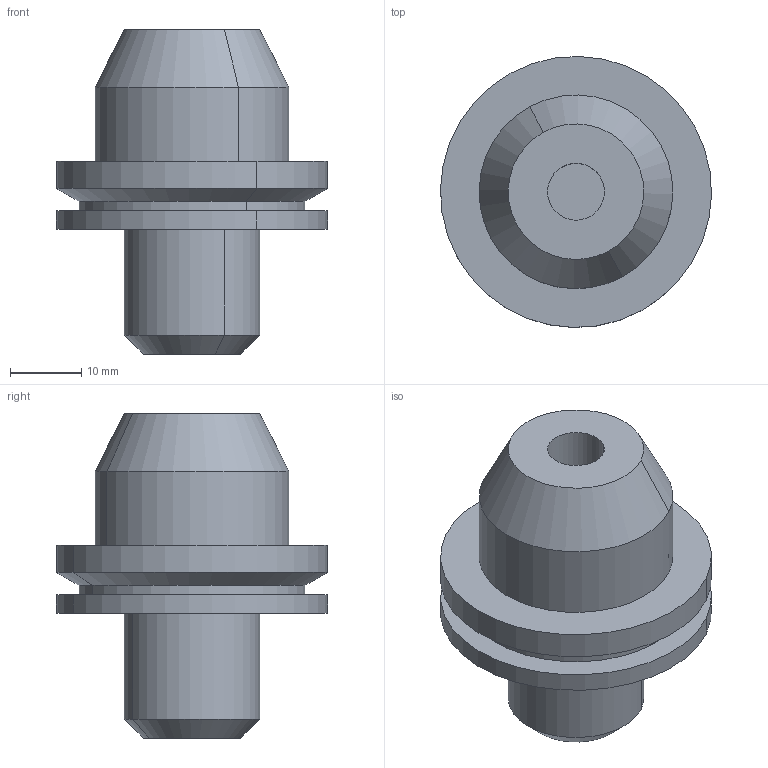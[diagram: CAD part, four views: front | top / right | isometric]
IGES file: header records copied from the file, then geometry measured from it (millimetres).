
Start section: START RECORD GO HERE.
Global section: file name: TTS_Holder.igs; native system: IBM CATIA IGES - CATIA Version 5 Release 18 ; preprocessor: CATIA Version 5 Release 18 ; author: Barry; organization: win764bit; date: 20170723.073338; units: millimetre
Bounding box: 38.09 x 38.09 x 45.59 mm (x, y, z)
Surface area: 6632.8 mm2 (no closed solid volume)
Topology: 0 solids, 0 shells, 24 faces, 92 edges, 92 vertices
Faces by surface type: revolution 18, plane 6
